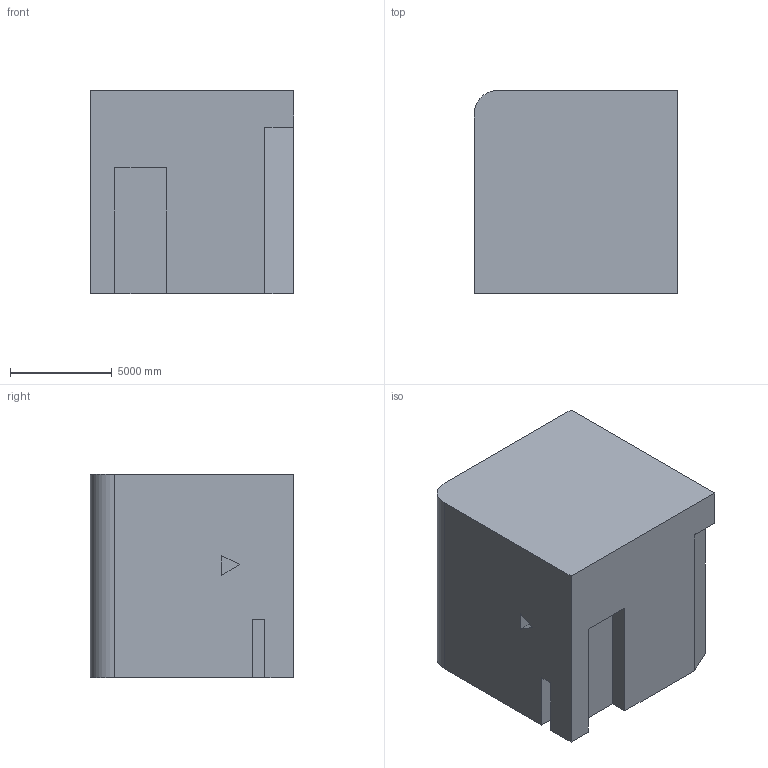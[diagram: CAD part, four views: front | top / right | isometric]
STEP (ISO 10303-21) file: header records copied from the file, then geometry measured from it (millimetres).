
FILE_DESCRIPTION (( 'STEP AP203' ), '1' );
FILE_NAME ('142.STEP', '2022-09-06T15:12:11', ( 'user' ), ( '' ), 'SwSTEP 2.0', 'SolidWorks 2021', '' );
FILE_SCHEMA (( 'CONFIG_CONTROL_DESIGN' ));
Length unit declared in the file: centimetre
Products named in the file (1): 142
Bounding box: 10000 x 10000 x 10000 mm (x, y, z)
Volume: 966822158507.5 mm3; surface area: 652358710.1 mm2
Topology: 1 solids, 1 shells, 21 faces, 54 edges, 36 vertices
Faces by surface type: plane 20, cylinder 1
Entity records: 707 total; most frequent: CARTESIAN_POINT 112, ORIENTED_EDGE 108, DIRECTION 100, EDGE_CURVE 54, VECTOR 52, LINE 52, VERTEX_POINT 36, AXIS2_PLACEMENT_3D 24
